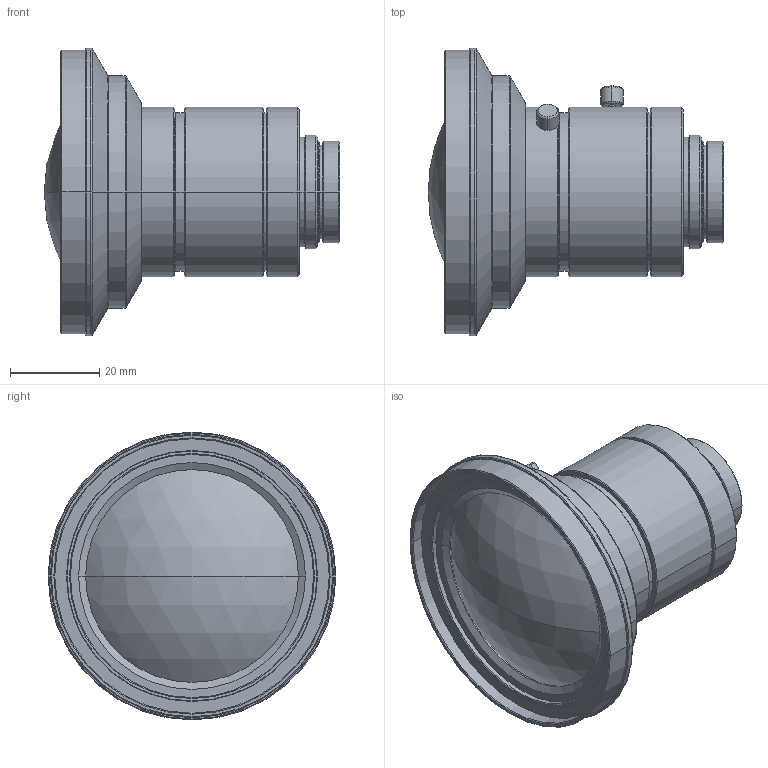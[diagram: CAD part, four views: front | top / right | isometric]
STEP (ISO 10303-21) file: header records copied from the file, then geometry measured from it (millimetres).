
FILE_DESCRIPTION (( 'STEP AP203' ), '1' );
FILE_NAME ('VS-0618H1.STEP', '2013-12-03T02:21:47', ( 'VS Technology' ), ( '' ), 'SwSTEP 2.0', 'SolidWorks 2012', '' );
FILE_SCHEMA (( 'CONFIG_CONTROL_DESIGN' ));
Length unit declared in the file: millimetre
Products named in the file (1): VS-0618H1
Bounding box: 66.21 x 64.5 x 64.5 mm (x, y, z)
Volume: 84732.4 mm3; surface area: 15679.1 mm2
Topology: 1 solids, 1 shells, 131 faces, 260 edges, 152 vertices
Faces by surface type: cone 56, cylinder 46, plane 21, torus 4, sphere 4
Entity records: 3509 total; most frequent: DIRECTION 674, CARTESIAN_POINT 608, ORIENTED_EDGE 520, AXIS2_PLACEMENT_3D 286, EDGE_CURVE 260, CIRCLE 154, VERTEX_POINT 152, EDGE_LOOP 152
